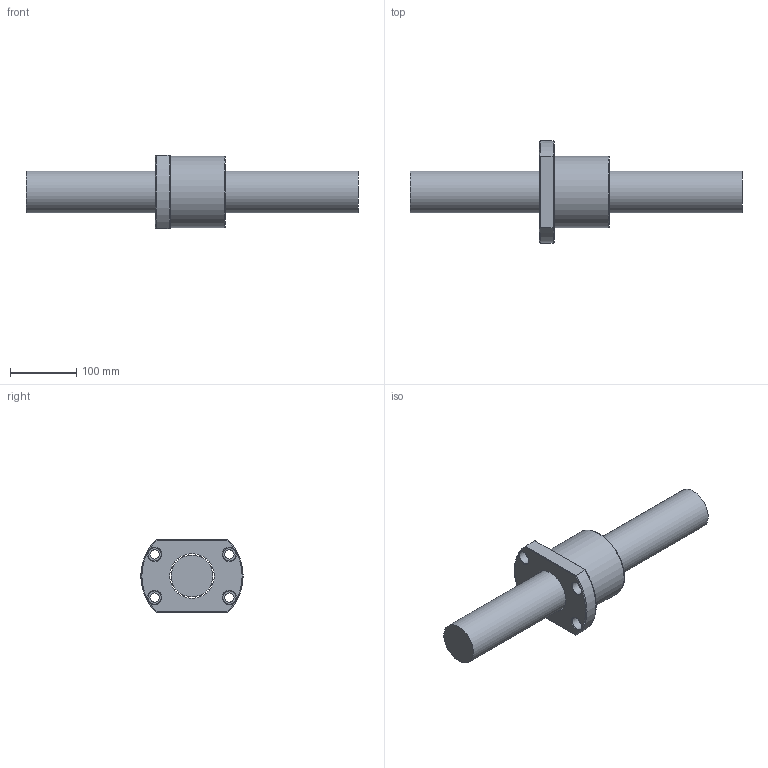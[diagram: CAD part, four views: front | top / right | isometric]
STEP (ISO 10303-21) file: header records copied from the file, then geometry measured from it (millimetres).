
FILE_DESCRIPTION (( 'STEP AP203' ), '1' );
FILE_NAME ('SFV06310D-4.8.step', '2024-05-20T03:40:16', ( '' ), ( '' ), 'SwSTEP 2.0', 'SolidWorks 2022', '' );
FILE_SCHEMA (( 'CONFIG_CONTROL_DESIGN' ));
Length unit declared in the file: millimetre
Products named in the file (1): SFV06310D-4.8
Bounding box: 500 x 154 x 110 mm (x, y, z)
Volume: 2262620.1 mm3; surface area: 192653.9 mm2
Topology: 2 solids, 2 shells, 56 faces, 147 edges, 96 vertices
Faces by surface type: cylinder 21, plane 16, cone 9, bspline 5, torus 5
Full cylindrical faces by diameter (mm): 4 x1, 7 x5, 14 x4, 20 x4, 63 x1, 67.1 x1, 108 x1
Entity records: 3594 total; most frequent: CARTESIAN_POINT 2507, DIRECTION 196, ORIENTED_EDGE 184, EDGE_CURVE 92, AXIS2_PLACEMENT_3D 91, EDGE_LOOP 86, VERTEX_POINT 72, FACE_OUTER_BOUND 64
